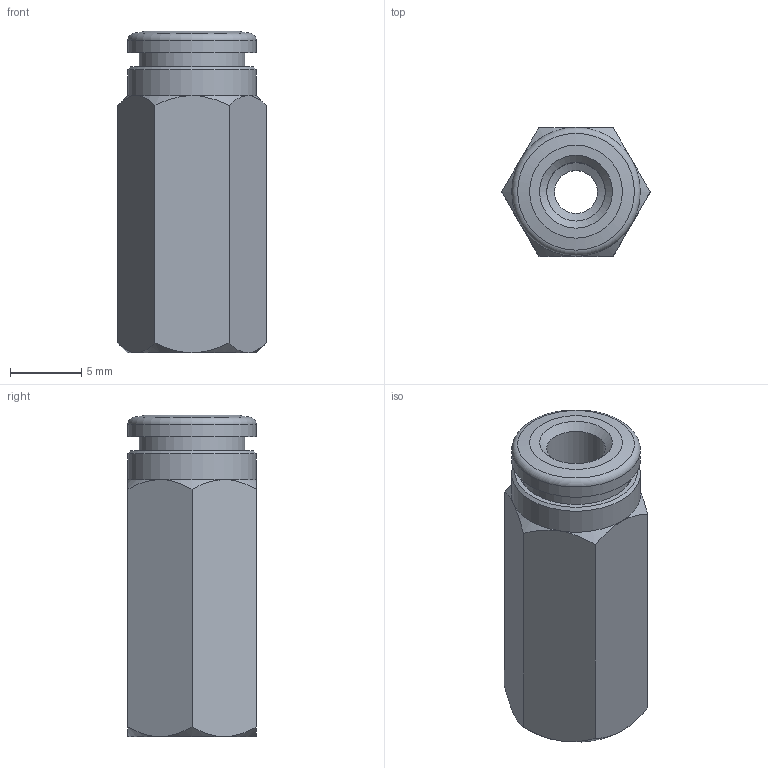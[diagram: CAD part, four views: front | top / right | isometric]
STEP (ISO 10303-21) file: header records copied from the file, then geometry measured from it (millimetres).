
FILE_DESCRIPTION(('Bauteilbeschreibung','HiCAD-Model','HiCAD-STEP-TRANSLATION','Bauteilbeschreibung'),'2;1');
FILE_NAME('B:/ABGLEICH/ZEICHNUNGEN/STEP FÜR INTERNET/STEP/200200_IPSO_02_4_M5.STP','2011-07-14T13:13:03+00:00',('Konstrukteur'),('Konstrukteur Firma GmbH'),' HiCAD neXt 2008, Step 3.1.1401.2J ','HiCAD neXt 2008','confidential');
FILE_SCHEMA(('AUTOMOTIVE_DESIGN { 1 2 10303 214 0 1 1 1 }'));
Length unit declared in the file: millimetre
Products named in the file (5): A00200_IPSO_02_4_M5; DR4_1_NEU; R200200_N; R2002000N; DIN 13_M5
Assembly tree (4 placements, depth 3):
  A00200_IPSO_02_4_M5
    DR4_1_NEU
    R200200_N
    R2002000N
      DIN 13_M5
Bounding box: 10.39 x 9 x 22.5 mm (x, y, z)
Volume: 1083.2 mm3; surface area: 1594.4 mm2
Topology: 3 solids, 3 shells, 52 faces, 107 edges, 63 vertices
Faces by surface type: cone 24, plane 14, cylinder 13, torus 1
Full cylindrical faces by diameter (mm): 3 x1, 4.019 x2, 4.1 x2, 5 x2, 6.4 x1, 7.3 x1, 7.4 x1, 7.6 x1, 9 x2
Entity records: 1801 total; most frequent: CARTESIAN_POINT 247, DIRECTION 216, ORIENTED_EDGE 150, AXIS2_PLACEMENT_3D 105, EDGE_LOOP 86, COLOUR_RGB 78, PRESENTATION_STYLE_ASSIGNMENT 78, CURVE_STYLE 75
